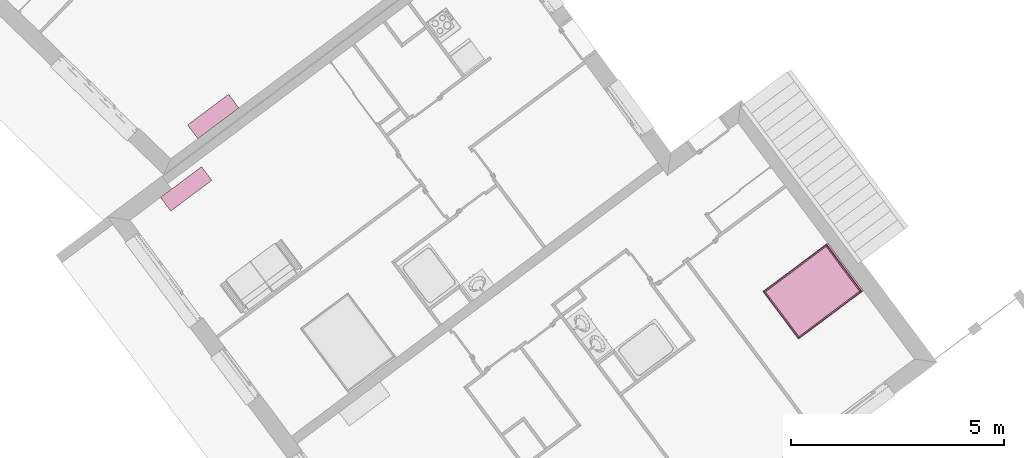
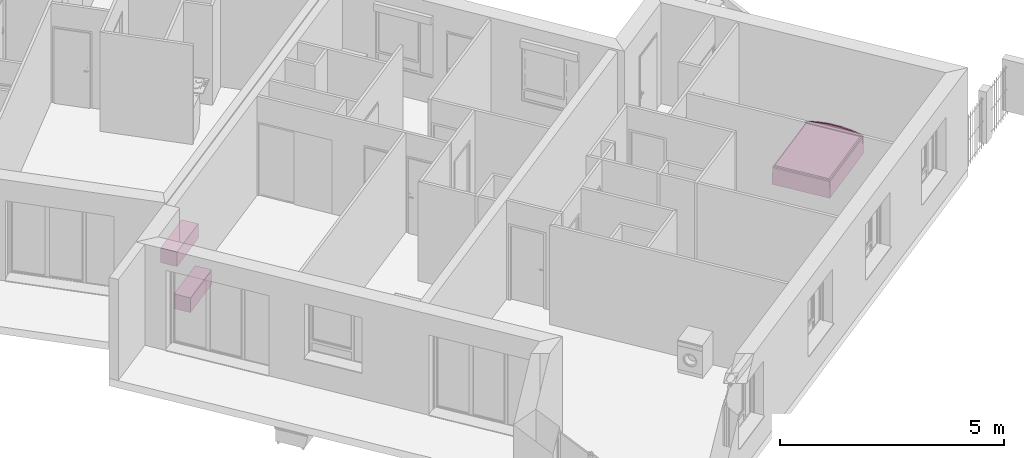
# One storey, part 147 of 195: 3 furnishings.
"""IFC2X3 building model written with IfcOpenShell, lengths in metres."""

from ifc_helpers import new_model, entity, si_unit, converted_unit, derived_unit, money_unit, direction, frame, origin_with_axes, place, context, subcontext, project, spatial, open_shell, faceted_brep, surface_model, source, transform, mapped, type_object, element, save


model = new_model("IFC2X3")

# Units and contexts
model_context = context("Model", 3, precision=1e-05, world=origin_with_axes(), true_north=direction((0.0, 1.0)))
body_context = subcontext(model_context, "Body", "Model", "MODEL_VIEW")
ifc_project = project(units=[si_unit("LENGTHUNIT", "METRE"), si_unit("AREAUNIT", "SQUARE_METRE"), si_unit("VOLUMEUNIT", "CUBIC_METRE"), converted_unit("PLANEANGLEUNIT", "DEGREE", entity("IfcPlaneAngleMeasure", 0.0174532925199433), si_unit("PLANEANGLEUNIT", "RADIAN"), dimensions=[0, 0, 0, 0, 0, 0, 0]), money_unit("CHF"), converted_unit("TIMEUNIT", "Year", entity("IfcTimeMeasure", 31557600.0), si_unit("TIMEUNIT", "SECOND"), dimensions=[0, 0, 1, 0, 0, 0, 0]), si_unit("MASSUNIT", "GRAM", prefix="KILO"), si_unit("THERMODYNAMICTEMPERATUREUNIT", "DEGREE_CELSIUS"), si_unit("LUMINOUSINTENSITYUNIT", "LUMEN"), si_unit("ENERGYUNIT", "JOULE", prefix="MEGA"), derived_unit("THERMALCONDUCTANCEUNIT", [(si_unit("POWERUNIT", "WATT"), 1), (si_unit("LENGTHUNIT", "METRE"), -1), (si_unit("THERMODYNAMICTEMPERATUREUNIT", "KELVIN"), -1)]), derived_unit("SPECIFICHEATCAPACITYUNIT", [(si_unit("ENERGYUNIT", "JOULE"), 1), (si_unit("MASSUNIT", "GRAM", prefix="KILO"), -1), (si_unit("THERMODYNAMICTEMPERATUREUNIT", "KELVIN"), -1)]), derived_unit("MASSDENSITYUNIT", [(si_unit("MASSUNIT", "GRAM", prefix="KILO"), 1), (si_unit("VOLUMEUNIT", "CUBIC_METRE"), -1)])], contexts=[model_context])

# Site, building, storey
site_placement = place(None, origin_with_axes())
site = spatial("IfcSite", under=ifc_project, at=site_placement, Name="Site", CompositionType="ELEMENT")
building_placement = place(site_placement, origin_with_axes())
building = spatial("IfcBuilding", under=site, at=building_placement, Name="Bâtiment", CompositionType="ELEMENT")
storey_placement = place(building_placement, origin_with_axes())
storey = spatial("IfcBuildingStorey", under=building, at=storey_placement, Name="rdc", CompositionType="ELEMENT", Elevation=0.0)

# Furnishings
furnishing_element_type_1 = type_object("IfcFurnishingElementType", Name="Meuble à plans 27")
shared_shape_1 = source(origin_with_axes(), body_context, "Body", "SurfaceModel", [
    surface_model("IfcShellBasedSurfaceModel", [(-1.18, 0.02, 0.0), (-1.18, 0.4, 0.0), (-0.02, 0.4, 0.0), (-0.02, 0.02, 0.0)], [open_shell([[[0, 1, 2, 3]]])]),
    faceted_brep([(0.0, 0.4, 0.0), (0.0, 0.0, 0.0), (-1.2, 0.0, 0.0), (-1.2, 0.4, 0.0), (0.0, 0.4, 0.4), (0.0, 0.0, 0.4), (-1.2, 0.0, 0.4), (-0.02, 0.0, 0.02), (-1.18, 0.0, 0.02), (-1.18, 0.0, 0.38), (-0.02, 0.0, 0.38), (-1.2, 0.4, 0.4), (-0.02, 0.4, 0.01999999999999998), (-0.02, 0.4, 0.38), (-1.18, 0.4, 0.38), (-1.18, 0.4, 0.01999999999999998)], [[[0, 1, 2, 3]], [[4, 5, 1, 0]], [[1, 5, 6, 2], [7, 8, 9, 10]], [[3, 2, 6, 11]], [[0, 3, 11, 4], [12, 13, 14, 15]], [[11, 6, 5, 4]], [[15, 8, 7, 12]], [[14, 9, 8, 15]], [[13, 10, 9, 14]], [[12, 7, 10, 13]]]),
    faceted_brep([(-1.18, 0.4, 0.01999999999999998), (-1.18, 0.4, 0.38), (-0.02, 0.4, 0.38), (-0.02, 0.4, 0.01999999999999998), (-1.18, 0.38, 0.01999999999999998), (-1.18, 0.3800000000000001, 0.38), (-0.02, 0.3800000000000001, 0.38), (-0.02, 0.38, 0.01999999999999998)], [[[0, 1, 2, 3]], [[0, 4, 5, 1]], [[1, 5, 6, 2]], [[2, 6, 7, 3]], [[3, 7, 4, 0]], [[7, 6, 5, 4]]]),
    faceted_brep([(-1.18, 0.0, 0.02), (-1.18, 0.38, 0.02), (-0.02, 0.38, 0.02), (-0.02, 0.0, 0.02), (-1.18, 0.0, 0.3750000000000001), (-1.18, 0.38, 0.3750000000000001), (-0.02, 0.38, 0.3750000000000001), (-0.02, 0.0, 0.3750000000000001)], [[[0, 1, 2, 3]], [[0, 4, 5, 1]], [[1, 5, 6, 2]], [[2, 6, 7, 3]], [[3, 7, 4, 0]], [[7, 6, 5, 4]]]),
])
furnishing_1_placement = place(storey_placement, frame((9530.692202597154, -1075.765288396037, 57.92018680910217), z_axis=(0.0, 0.0, 1.0), x_axis=(0.8011623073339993, 0.5984471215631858, 0.0)))
element("IfcFurnishingElement", 1, at=furnishing_1_placement, inside=storey, type_object=furnishing_element_type_1, Name="Obj.-376", context=body_context, shape_type="MappedRepresentation", body=[
    mapped(shared_shape_1, transform((0.0, 0.0, 0.0))),
])
shared_shape_2 = source(origin_with_axes(), body_context, "Body", "SurfaceModel", [
    surface_model("IfcShellBasedSurfaceModel", [(1.18, 0.02, 0.0), (0.02, 0.02, 0.0), (0.02, 0.4, 0.0), (1.18, 0.4, 0.0)], [open_shell([[[0, 1, 2, 3]]])]),
    faceted_brep([(0.0, 0.4, 0.0), (1.2, 0.4, 0.0), (1.2, 0.0, 0.0), (0.0, 0.0, 0.0), (0.0, 0.4, 0.4), (1.2, 0.4, 0.4), (0.02, 0.4, 0.01999999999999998), (1.18, 0.4, 0.01999999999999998), (1.18, 0.4, 0.38), (0.02, 0.4, 0.38), (1.2, 0.0, 0.4), (0.0, 0.0, 0.4), (0.02, 0.0, 0.02), (0.02, 0.0, 0.38), (1.18, 0.0, 0.38), (1.18, 0.0, 0.02)], [[[0, 1, 2, 3]], [[0, 4, 5, 1], [6, 7, 8, 9]], [[1, 5, 10, 2]], [[3, 2, 10, 11], [12, 13, 14, 15]], [[4, 0, 3, 11]], [[5, 4, 11, 10]], [[7, 6, 12, 15]], [[8, 7, 15, 14]], [[9, 8, 14, 13]], [[6, 9, 13, 12]]]),
    faceted_brep([(1.18, 0.4, 0.01999999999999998), (0.02, 0.4, 0.01999999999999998), (0.02, 0.4, 0.38), (1.18, 0.4, 0.38), (1.18, 0.38, 0.01999999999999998), (0.02, 0.38, 0.01999999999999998), (0.02, 0.3800000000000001, 0.38), (1.18, 0.3800000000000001, 0.38)], [[[0, 1, 2, 3]], [[1, 0, 4, 5]], [[2, 1, 5, 6]], [[3, 2, 6, 7]], [[0, 3, 7, 4]], [[5, 4, 7, 6]]]),
    faceted_brep([(1.18, 0.0, 0.02), (0.02, 0.0, 0.02), (0.02, 0.38, 0.02), (1.18, 0.38, 0.02), (1.18, 0.0, 0.3750000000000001), (0.02, 0.0, 0.3750000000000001), (0.02, 0.38, 0.3750000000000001), (1.18, 0.38, 0.3750000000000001)], [[[0, 1, 2, 3]], [[1, 0, 4, 5]], [[2, 1, 5, 6]], [[3, 2, 6, 7]], [[0, 3, 7, 4]], [[5, 4, 7, 6]]]),
])
furnishing_2_placement = place(storey_placement, frame((9531.087260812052, -1073.74771034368, 57.92018680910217), z_axis=(0.0, 0.0, 1.0), x_axis=(-0.8011628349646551, -0.598446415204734, 0.0)))
element("IfcFurnishingElement", 2, at=furnishing_2_placement, inside=storey, type_object=furnishing_element_type_1, Name="Obj.-376", context=body_context, shape_type="MappedRepresentation", body=[
    mapped(shared_shape_2, transform((0.0, 0.0, 0.0))),
])
furnishing_element_type_2 = type_object("IfcFurnishingElementType", Name="Lit double 01")
shared_shape_3 = source(origin_with_axes(), body_context, "Body", "Brep", [
    faceted_brep([(0.0, 1.895, 0.0), (1.4, 1.895, 0.0), (1.4, 1.865, 0.0), (0.0, 1.865, 0.0), (0.0, 1.895, 0.48), (0.276362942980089, 1.895, 0.5438448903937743), (0.558179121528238, 1.895, 0.5759741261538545), (0.8418208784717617, 1.895, 0.5759741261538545), (1.123637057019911, 1.895, 0.5438448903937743), (1.4, 1.895, 0.48), (1.4, 1.895, 0.4799), (1.4, 1.865, 0.4799), (1.4, 1.865, 0.48), (1.123637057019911, 1.865, 0.5438448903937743), (0.8418208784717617, 1.865, 0.5759741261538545), (0.558179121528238, 1.865, 0.5759741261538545), (0.276362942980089, 1.865, 0.5438448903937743), (0.0, 1.865, 0.48)], [[[0, 1, 2, 3]], [[0, 4, 5, 6, 7, 8, 9, 10, 1]], [[1, 10, 11, 2]], [[3, 2, 11, 12, 13, 14, 15, 16, 17]], [[4, 0, 3, 17]], [[5, 4, 17, 16]], [[6, 5, 16, 15]], [[7, 6, 15, 14]], [[8, 7, 14, 13]], [[9, 8, 13, 12]], [[10, 9, 12, 11]]]),
    faceted_brep([(1.4, 1.9, 0.48), (1.399999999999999, 1.9, 0.4999999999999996), (1.399999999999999, 1.86, 0.4999999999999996), (1.4, 1.86, 0.48), (1.123637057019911, 1.9, 0.5438448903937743), (0.8418208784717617, 1.9, 0.5759741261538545), (0.558179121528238, 1.9, 0.5759741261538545), (0.276362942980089, 1.9, 0.5438448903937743), (0.0, 1.9, 0.48), (0.0, 1.9, 0.4999), (0.0, 1.9, 0.5), (0.276362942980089, 1.9, 0.5638448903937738), (0.5581791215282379, 1.9, 0.5959741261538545), (0.8418208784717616, 1.9, 0.5959741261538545), (1.123637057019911, 1.9, 0.5638448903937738), (1.123637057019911, 1.86, 0.5638448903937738), (0.8418208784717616, 1.86, 0.5959741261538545), (0.5581791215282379, 1.86, 0.5959741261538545), (0.276362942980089, 1.86, 0.5638448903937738), (0.0, 1.86, 0.5), (0.0, 1.86, 0.4999), (0.0, 1.86, 0.48), (0.276362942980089, 1.86, 0.5438448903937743), (0.558179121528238, 1.86, 0.5759741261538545), (0.8418208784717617, 1.86, 0.5759741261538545), (1.123637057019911, 1.86, 0.5438448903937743)], [[[0, 1, 2, 3]], [[0, 4, 5, 6, 7, 8, 9, 10, 11, 12, 13, 14, 1]], [[1, 14, 15, 2]], [[3, 2, 15, 16, 17, 18, 19, 20, 21, 22, 23, 24, 25]], [[4, 0, 3, 25]], [[5, 4, 25, 24]], [[6, 5, 24, 23]], [[7, 6, 23, 22]], [[8, 7, 22, 21]], [[9, 8, 21, 20]], [[10, 9, 20, 19]], [[11, 10, 19, 18]], [[12, 11, 18, 17]], [[13, 12, 17, 16]], [[14, 13, 16, 15]]]),
    faceted_brep([(1.4, 0.0, 0.0), (0.0, 0.0, 0.0), (0.0, 1.865, 0.0), (1.4, 1.865, 0.0), (1.4, 0.0, 0.3), (0.0, 0.0, 0.3), (0.0, 1.865, 0.3), (1.4, 1.865, 0.3)], [[[0, 1, 2, 3]], [[1, 0, 4, 5]], [[2, 1, 5, 6]], [[3, 2, 6, 7]], [[0, 3, 7, 4]], [[5, 4, 7, 6]]]),
    faceted_brep([(0.0, 0.02, 0.43), (0.0, 1.845, 0.43), (0.002679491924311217, 1.855, 0.43), (0.009999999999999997, 1.862320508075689, 0.43), (0.02, 1.865, 0.43), (1.38, 1.865, 0.43), (1.39, 1.862320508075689, 0.43), (1.397320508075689, 1.855, 0.43), (1.4, 1.845, 0.43), (1.4, 0.02, 0.43), (1.397320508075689, 0.009999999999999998, 0.43), (1.39, 0.002679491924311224, 0.43), (1.38, 0.0, 0.43), (0.01999999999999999, 0.0, 0.43), (0.009999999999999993, 0.002679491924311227, 0.43), (0.002679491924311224, 0.01, 0.43), (-3.895163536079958e-10, 0.02000000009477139, 0.44), (-3.895163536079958e-10, 1.845000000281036, 0.44), (0.002679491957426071, 1.855000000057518, 0.44), (0.0100000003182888, 1.862320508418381, 0.44), (0.02000000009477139, 1.864999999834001, 0.44), (1.380000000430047, 1.864999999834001, 0.44), (1.39000000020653, 1.862320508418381, 0.44), (1.39732050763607, 1.855000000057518, 0.44), (1.399999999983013, 1.845000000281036, 0.44), (1.399999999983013, 0.02000000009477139, 0.44), (1.39732050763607, 0.0100000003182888, 0.44), (1.39000000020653, 0.002679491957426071, 0.44), (1.380000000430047, -3.895163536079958e-10, 0.44), (0.02000000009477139, -3.895163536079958e-10, 0.44), (0.0100000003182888, 0.002679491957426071, 0.44), (0.002679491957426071, 0.0100000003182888, 0.44), (0.002044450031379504, 0.02026915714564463, 0.4555291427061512), (0.002044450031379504, 1.844730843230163, 0.4555291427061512), (0.004512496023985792, 1.853941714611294, 0.4555291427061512), (0.01105828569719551, 1.860487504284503, 0.4555291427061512), (0.02026915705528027, 1.862955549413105, 0.4555291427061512), (1.379730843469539, 1.862955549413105, 0.4555291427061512), (1.388941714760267, 1.860487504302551, 0.4555291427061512), (1.395487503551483, 1.853941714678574, 0.4555291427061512), (1.397955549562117, 1.844730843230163, 0.4555291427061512), (1.397955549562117, 0.02026915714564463, 0.4555291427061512), (1.395487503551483, 0.01105828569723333, 0.4555291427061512), (1.388941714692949, 0.004512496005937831, 0.4555291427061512), (1.379730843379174, 0.002044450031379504, 0.4555291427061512), (0.02026915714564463, 0.002044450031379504, 0.4555291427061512), (0.01105828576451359, 0.004512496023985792, 0.4555291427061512), (0.004512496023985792, 0.01105828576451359, 0.4555291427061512), (0.01757359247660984, 0.02231360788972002, 0.4824264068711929), (0.01757359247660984, 1.842686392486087, 0.4824264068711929), (0.01843554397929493, 1.845903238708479, 0.4824264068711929), (0.01909676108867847, 1.846564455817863, 0.4824264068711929), (0.02231360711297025, 1.847426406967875, 0.4824264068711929), (1.377686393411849, 1.847426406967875, 0.4824264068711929), (1.380903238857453, 1.846564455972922, 0.4824264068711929), (1.381564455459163, 1.845903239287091, 0.4824264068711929), (1.382426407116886, 1.842686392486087, 0.4824264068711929), (1.382426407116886, 0.02231360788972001, 0.4824264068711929), (1.381564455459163, 0.01909676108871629, 0.4824264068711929), (1.380903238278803, 0.01843554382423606, 0.4824264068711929), (1.377686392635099, 0.01757359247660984, 0.4824264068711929), (0.02231360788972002, 0.01757359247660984, 0.4824264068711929), (0.01909676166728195, 0.01843554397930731, 0.4824264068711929), (0.01843554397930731, 0.01909676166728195, 0.4824264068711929), (0.02303225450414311, 0.02303225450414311, 0.4855779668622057), (0.04447085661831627, 0.04447085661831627, 0.4979555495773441), (0.04447085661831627, 1.820529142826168, 0.4979555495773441), (0.02303225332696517, 1.841967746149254, 0.48557796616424), (0.02000000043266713, 1.844999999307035, 0.4834338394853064), (1.35552914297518, 1.820529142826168, 0.4979555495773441), (1.376967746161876, 1.841967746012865, 0.4855779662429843), (1.380000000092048, 1.845000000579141, 0.4834338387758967), (1.35552914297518, 0.04447085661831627, 0.4979555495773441), (1.376967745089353, 0.02303225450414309, 0.4855779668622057), (1.379999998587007, 0.02000000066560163, 0.4834338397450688), (0.02000000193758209, 0.02000000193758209, 0.4834338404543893), (0.05999999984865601, 0.05999999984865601, 0.5000000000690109), (0.05999999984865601, 1.804999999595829, 0.5000000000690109), (1.33999999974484, 1.804999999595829, 0.5000000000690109), (1.33999999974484, 0.05999999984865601, 0.5000000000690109)], [[[0, 1, 2, 3, 4, 5, 6, 7, 8, 9, 10, 11, 12, 13, 14, 15]], [[1, 0, 16, 17]], [[2, 1, 17, 18]], [[3, 2, 18, 19]], [[4, 3, 19, 20]], [[5, 4, 20, 21]], [[6, 5, 21, 22]], [[7, 6, 22, 23]], [[8, 7, 23, 24]], [[9, 8, 24, 25]], [[10, 9, 25, 26]], [[11, 10, 26, 27]], [[12, 11, 27, 28]], [[13, 12, 28, 29]], [[14, 13, 29, 30]], [[15, 14, 30, 31]], [[0, 15, 31, 16]], [[17, 16, 32, 33]], [[18, 17, 33, 34]], [[19, 18, 34, 35]], [[20, 19, 35, 36]], [[21, 20, 36, 37]], [[22, 21, 37, 38]], [[23, 22, 38, 39]], [[24, 23, 39, 40]], [[25, 24, 40, 41]], [[26, 25, 41, 42]], [[27, 26, 42, 43]], [[28, 27, 43, 44]], [[29, 28, 44, 45]], [[30, 29, 45, 46]], [[31, 30, 46, 47]], [[16, 31, 47, 32]], [[33, 32, 48, 49]], [[34, 33, 49, 50]], [[35, 34, 50, 51]], [[36, 35, 51, 52]], [[37, 36, 52, 53]], [[38, 37, 53, 54]], [[39, 38, 54, 55]], [[40, 39, 55, 56]], [[41, 40, 56, 57]], [[42, 41, 57, 58]], [[43, 42, 58, 59]], [[44, 43, 59, 60]], [[45, 44, 60, 61]], [[46, 45, 61, 62]], [[47, 46, 62, 63]], [[32, 47, 63, 48]], [[49, 48, 64, 65, 66, 67]], [[50, 49, 67, 68]], [[51, 50, 68]], [[52, 51, 68, 67]], [[53, 52, 67, 66, 69, 70]], [[54, 53, 70, 71]], [[55, 54, 71]], [[56, 55, 71, 70]], [[57, 56, 70, 69, 72, 73]], [[58, 57, 73, 74]], [[59, 58, 74]], [[60, 59, 74, 73]], [[61, 60, 73, 72, 65, 64]], [[62, 61, 64, 75]], [[63, 62, 75]], [[48, 63, 75, 64]], [[66, 65, 76, 77]], [[69, 66, 77, 78]], [[72, 69, 78, 79]], [[65, 72, 79, 76]], [[78, 77, 76, 79]]]),
    faceted_brep([(0.0, 0.02000000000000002, 0.3099999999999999), (-3.895163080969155e-10, 0.02000000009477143, 0.2999999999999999), (0.002679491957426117, 0.01000000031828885, 0.2999999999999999), (0.002679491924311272, 0.01000000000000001, 0.3099999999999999), (0.0, 1.845, 0.3099999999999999), (-3.895163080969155e-10, 1.845000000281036, 0.2999999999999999), (0.002679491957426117, 1.855000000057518, 0.2999999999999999), (0.01000000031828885, 1.862320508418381, 0.2999999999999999), (0.02000000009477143, 1.864999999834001, 0.2999999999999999), (1.380000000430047, 1.864999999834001, 0.2999999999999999), (1.39000000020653, 1.862320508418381, 0.2999999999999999), (1.39732050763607, 1.855000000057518, 0.2999999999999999), (1.399999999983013, 1.845000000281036, 0.2999999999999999), (1.399999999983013, 0.02000000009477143, 0.2999999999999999), (1.39732050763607, 0.01000000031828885, 0.2999999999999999), (1.39000000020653, 0.002679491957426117, 0.2999999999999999), (1.380000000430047, -3.895163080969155e-10, 0.2999999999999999), (0.02000000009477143, -3.895163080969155e-10, 0.2999999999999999), (0.01000000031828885, 0.002679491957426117, 0.2999999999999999), (0.01000000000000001, 0.002679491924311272, 0.3099999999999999), (0.02000000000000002, 0.0, 0.3099999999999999), (1.38, 0.0, 0.3099999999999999), (1.39, 0.002679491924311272, 0.3099999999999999), (1.397320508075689, 0.01000000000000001, 0.3099999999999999), (1.4, 0.02000000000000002, 0.3099999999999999), (1.4, 1.845, 0.3099999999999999), (1.397320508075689, 1.855, 0.3099999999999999), (1.39, 1.862320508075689, 0.3099999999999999), (1.38, 1.865, 0.3099999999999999), (0.02000000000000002, 1.865, 0.3099999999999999), (0.01000000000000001, 1.862320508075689, 0.3099999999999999), (0.002679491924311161, 1.855, 0.3099999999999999)], [[[0, 1, 2, 3]], [[1, 0, 4, 5]], [[2, 1, 5, 6, 7, 8, 9, 10, 11, 12, 13, 14, 15, 16, 17, 18]], [[3, 2, 18, 19]], [[3, 19, 20, 21, 22, 23, 24, 25, 26, 27, 28, 29, 30, 31, 4, 0]], [[5, 4, 31, 6]], [[6, 31, 30, 7]], [[7, 30, 29, 8]], [[8, 29, 28, 9]], [[27, 10, 9, 28]], [[10, 27, 26, 11]], [[11, 26, 25, 12]], [[24, 13, 12, 25]], [[23, 14, 13, 24]], [[22, 15, 14, 23]], [[21, 16, 15, 22]], [[20, 17, 16, 21]], [[18, 17, 20, 19]]]),
    faceted_brep([(0.0, 0.02, 0.3099999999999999), (0.002679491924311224, 0.01, 0.3099999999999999), (0.002679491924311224, 0.01, 0.4299999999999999), (0.0, 0.02, 0.4299999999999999), (0.0, 1.845, 0.3099999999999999), (0.002679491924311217, 1.855, 0.3099999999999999), (0.009999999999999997, 1.862320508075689, 0.3099999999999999), (0.02, 1.865, 0.3099999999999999), (1.38, 1.865, 0.3099999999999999), (1.39, 1.862320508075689, 0.3099999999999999), (1.397320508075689, 1.855, 0.3099999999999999), (1.4, 1.845, 0.3099999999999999), (1.4, 0.02, 0.3099999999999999), (1.397320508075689, 0.009999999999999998, 0.3099999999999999), (1.39, 0.002679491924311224, 0.3099999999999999), (1.38, 0.0, 0.3099999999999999), (0.01999999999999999, 0.0, 0.3099999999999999), (0.009999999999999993, 0.002679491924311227, 0.3099999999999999), (0.009999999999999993, 0.002679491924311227, 0.4299999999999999), (0.01999999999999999, 0.0, 0.4299999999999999), (1.38, 0.0, 0.4299999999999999), (1.39, 0.002679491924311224, 0.4299999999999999), (1.397320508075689, 0.009999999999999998, 0.4299999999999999), (1.4, 0.02, 0.4299999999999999), (1.4, 1.845, 0.4299999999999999), (1.397320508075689, 1.855, 0.4299999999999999), (1.39, 1.862320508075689, 0.4299999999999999), (1.38, 1.865, 0.4299999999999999), (0.02, 1.865, 0.4299999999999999), (0.009999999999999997, 1.862320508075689, 0.4299999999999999), (0.002679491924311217, 1.855, 0.4299999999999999), (0.0, 1.845, 0.4299999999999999)], [[[0, 1, 2, 3]], [[0, 4, 5, 6, 7, 8, 9, 10, 11, 12, 13, 14, 15, 16, 17, 1]], [[1, 17, 18, 2]], [[3, 2, 18, 19, 20, 21, 22, 23, 24, 25, 26, 27, 28, 29, 30, 31]], [[4, 0, 3, 31]], [[5, 4, 31, 30]], [[6, 5, 30, 29]], [[7, 6, 29, 28]], [[8, 7, 28, 27]], [[9, 8, 27, 26]], [[10, 9, 26, 25]], [[11, 10, 25, 24]], [[12, 11, 24, 23]], [[13, 12, 23, 22]], [[14, 13, 22, 21]], [[15, 14, 21, 20]], [[16, 15, 20, 19]], [[17, 16, 19, 18]]]),
])
furnishing_3_placement = place(storey_placement, frame((9543.60523484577, -1078.368665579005, 57.7), z_axis=(0.0, 0.0, 1.0), x_axis=(0.5986846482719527, -0.8009848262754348, 0.0)))
element("IfcFurnishingElement", 3, at=furnishing_3_placement, inside=storey, type_object=furnishing_element_type_2, Name="Obj.-002", context=body_context, shape_type="MappedRepresentation", body=[
    mapped(shared_shape_3, transform((0.0, 0.0, 0.0))),
])

save(model, "model.ifc")
